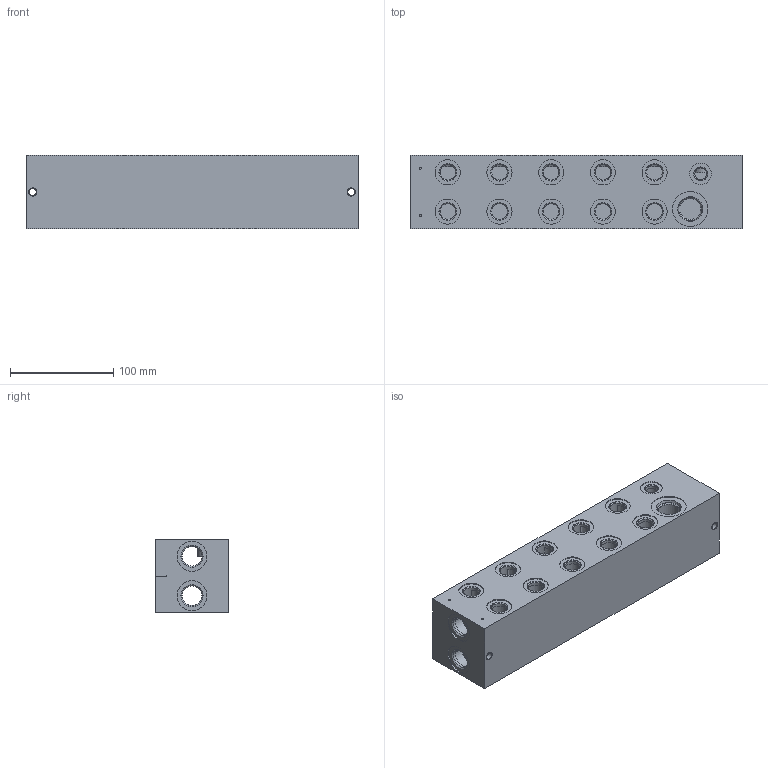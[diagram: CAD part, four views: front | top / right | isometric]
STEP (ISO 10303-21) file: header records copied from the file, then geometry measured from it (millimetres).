
FILE_DESCRIPTION((''),'2;1');
FILE_NAME('27564700','2015-11-27T',('Ahcz.brigadnik05'),(''),'PRO/ENGINEER BY PARAMETRIC TECHNOLOGY CORPORATION, 2015110','PRO/ENGINEER BY PARAMETRIC TECHNOLOGY CORPORATION, 2015110','');
FILE_SCHEMA(('AUTOMOTIVE_DESIGN { 1 0 10303 214 1 1 1 1 }'));
Length unit declared in the file: millimetre
Products named in the file (1): 27564700
Bounding box: 321 x 71 x 71 mm (x, y, z)
Volume: 528679.8 mm3; surface area: 204503.3 mm2
Topology: 1 solids, 44 shells, 384 faces, 1462 edges, 1422 vertices
Faces by surface type: cylinder 259, plane 76, cone 49
Entity records: 21574 total; most frequent: CARTESIAN_POINT 4365, DIRECTION 2752, ORIENTED_EDGE 1902, PRESENTATION_STYLE_ASSIGNMENT 1550, STYLED_ITEM 1550, CURVE_STYLE 1500, EDGE_CURVE 1037, AXIS2_PLACEMENT_3D 988
